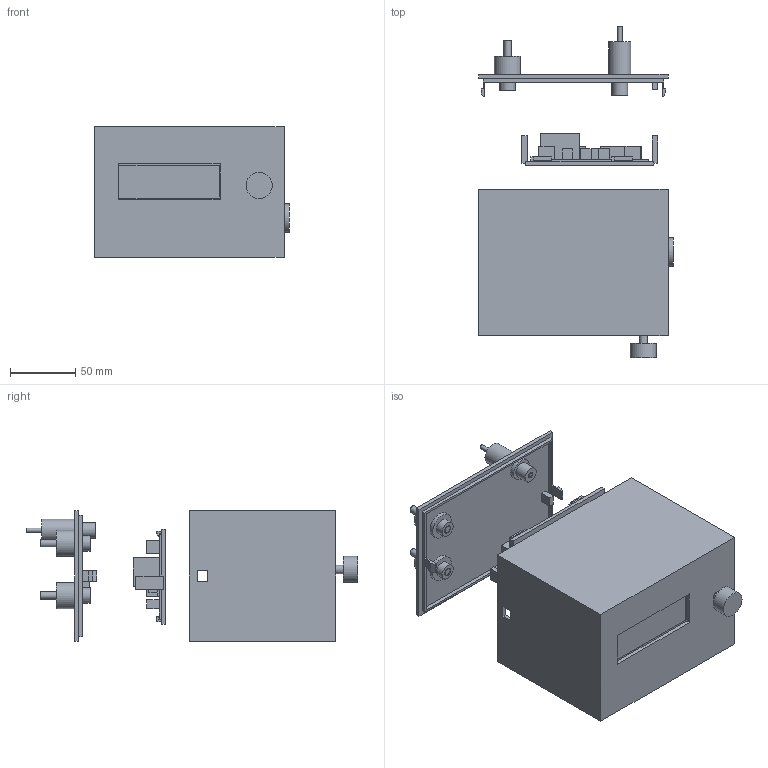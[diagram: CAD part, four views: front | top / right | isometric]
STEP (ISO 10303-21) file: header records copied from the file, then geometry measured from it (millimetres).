
FILE_DESCRIPTION(('Open CASCADE Model'),'2;1');
FILE_NAME('Open CASCADE Shape Model','2026-11-04T18:29:48',('Author'),( 'Open CASCADE'),'Open CASCADE STEP processor 7.8','Open CASCADE 7.8' ,'Unknown');
FILE_SCHEMA(('AUTOMOTIVE_DESIGN { 1 0 10303 214 1 1 1 1 }'));
Length unit declared in the file: millimetre
Products named in the file (66): Exploded_fit_study_02_USB; 01_Main_shell_with_LCD_and_A_clips; 02_B_removable_carrier_with_clips; 03_Rear_panel_with_latches; PCB_A; A_U1_ENVELOPE; A_U2_ENVELOPE; A_J1_ENVELOPE; A_J6_ENVELOPE; A_J7_ENVELOPE; A_J2_ENVELOPE; A_J3_ENVELOPE; A_J4_ENVELOPE; A_J5_ENVELOPE; A_JP1_ENVELOPE; A_C1_ENVELOPE; A_C2_ENVELOPE; A_C3_ENVELOPE; A_R1_ENVELOPE; A_R2_ENVELOPE; A_R3_ENVELOPE; A_R4_ENVELOPE; A_R5_ENVELOPE; PCB_B; B_U1_ENVELOPE; B_U2_ENVELOPE; B_U3_ENVELOPE; B_U4_ENVELOPE; B_Q1_ENVELOPE; B_F1_ENVELOPE; B_D1_ENVELOPE; B_D2_ENVELOPE; B_J2_ENVELOPE; B_J3_ENVELOPE; B_J4_ENVELOPE; B_J1_ENVELOPE; B_J6_ENVELOPE; B_J7_ENVELOPE; B_C1_ENVELOPE; B_C2_ENVELOPE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
Assembly tree (65 placements, depth 2):
  Exploded_fit_study_02_USB
    01_Main_shell_with_LCD_and_A_clips
    02_B_removable_carrier_with_clips
    03_Rear_panel_with_latches
    PCB_A
    A_U1_ENVELOPE
    A_U2_ENVELOPE
    A_J1_ENVELOPE
    A_J6_ENVELOPE
    A_J7_ENVELOPE
    A_J2_ENVELOPE
    A_J3_ENVELOPE
    A_J4_ENVELOPE
    A_J5_ENVELOPE
    A_JP1_ENVELOPE
    A_C1_ENVELOPE
    A_C2_ENVELOPE
    A_C3_ENVELOPE
    A_R1_ENVELOPE
    A_R2_ENVELOPE
    A_R3_ENVELOPE
    A_R4_ENVELOPE
    A_R5_ENVELOPE
    PCB_B
    B_U1_ENVELOPE
    B_U2_ENVELOPE
    B_U3_ENVELOPE
    B_U4_ENVELOPE
    B_Q1_ENVELOPE
    B_F1_ENVELOPE
    B_D1_ENVELOPE
    B_D2_ENVELOPE
    B_J2_ENVELOPE
    B_J3_ENVELOPE
    B_J4_ENVELOPE
    B_J1_ENVELOPE
    B_J6_ENVELOPE
    B_J7_ENVELOPE
    B_C1_ENVELOPE
    B_C2_ENVELOPE
    B_C3_ENVELOPE
    B_C4_ENVELOPE
    B_C5_ENVELOPE
    B_R1_ENVELOPE
    B_R2_ENVELOPE
    B_R3_ENVELOPE
    B_R4_ENVELOPE
    B_R5_ENVELOPE
    B_R6_ENVELOPE
    B_R7_ENVELOPE
    LCD_PCB_98x60_TBD
    LCD_front_bezel_TBD
    LCD_backpack_TBD
    LCD_visible_screen
    Encoder_body_TBD
    Encoder_shaft
    Encoder_knob_TBD
    USB_C_PANEL_DATA_EXTENSION_TBD
    USB_C_DEVKIT_MALE_PLUG_TBD
    USB_INTERNAL_DATA_CABLE_ROUTING_ONLY
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Bounding box: 149 x 254 x 100 mm (x, y, z)
Volume: 444149.5 mm3; surface area: 291519.1 mm2
Topology: 65 solids, 65 shells, 651 faces, 1457 edges, 968 vertices
Faces by surface type: plane 618, cylinder 33
Full cylindrical faces by diameter (mm): 3 x3, 3.5 x1, 4.3 x1, 5.5 x2, 6.3 x2, 6.4 x1, 7.2 x1, 8 x1, 12 x6, 12.4 x1, 12.5 x2, 15 x2, 16 x1, 17 x2, 20 x5, 22 x2
Entity records: 38385 total; most frequent: CARTESIAN_POINT 6110, DIRECTION 5869, LINE 4223, VECTOR 4223, ORIENTED_EDGE 2914, PCURVE 2914, DEFINITIONAL_REPRESENTATION 2914, EDGE_CURVE 1457
